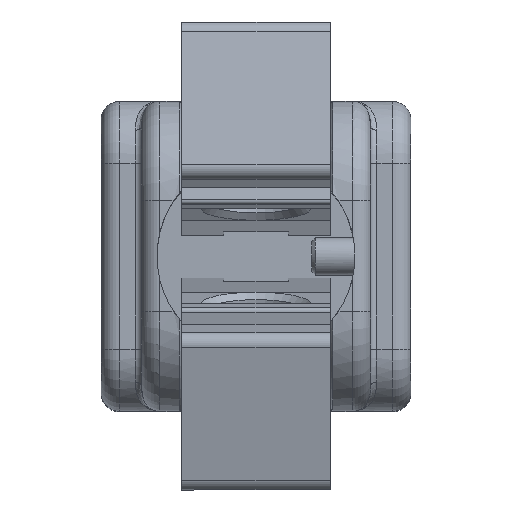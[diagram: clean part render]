
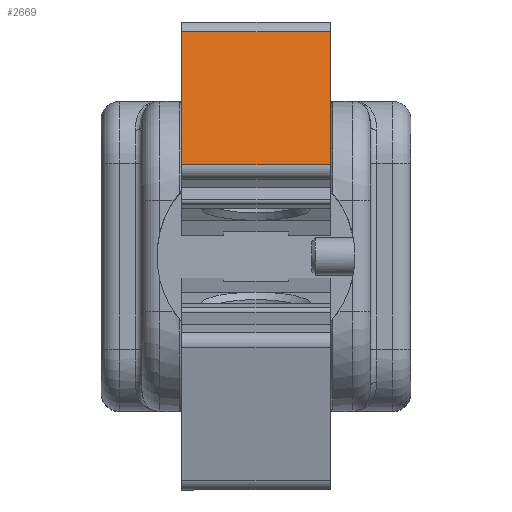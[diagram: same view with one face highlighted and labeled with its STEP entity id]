
A CAD part, top view. The second image highlights one B-rep face of the part: STEP entity #2669.
In plain terms, the highlighted planar face has unit normal (0, 0.221, 0.975).
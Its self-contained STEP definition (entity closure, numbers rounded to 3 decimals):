
#1298=PLANE('',#7135);
#1503=FACE_OUTER_BOUND('',#3374,.T.);
#1808=LINE('',#10542,#2176);
#1809=LINE('',#10544,#2177);
#1810=LINE('',#10546,#2178);
#1811=LINE('',#10548,#2179);
#2176=VECTOR('',#8426,1.);
#2177=VECTOR('',#8429,1.);
#2178=VECTOR('',#8430,1.);
#2179=VECTOR('',#8431,1.);
#2669=ADVANCED_FACE('',(#1503),#1298,.T.);
#3374=EDGE_LOOP('',(#4415,#4416,#4417,#4418));
#4415=ORIENTED_EDGE('',*,*,#6094,.F.);
#4416=ORIENTED_EDGE('',*,*,#6095,.T.);
#4417=ORIENTED_EDGE('',*,*,#6096,.F.);
#4418=ORIENTED_EDGE('',*,*,#6093,.T.);
#5415=VERTEX_POINT('',#10539);
#5416=VERTEX_POINT('',#10541);
#5417=VERTEX_POINT('',#10545);
#5418=VERTEX_POINT('',#10547);
#6093=EDGE_CURVE('',#5415,#5416,#1808,.T.);
#6094=EDGE_CURVE('',#5417,#5416,#1809,.T.);
#6095=EDGE_CURVE('',#5417,#5418,#1810,.T.);
#6096=EDGE_CURVE('',#5415,#5418,#1811,.T.);
#7135=AXIS2_PLACEMENT_3D('',#10549,#8432,#8433);
#8426=DIRECTION('',(1.,0.,0.));
#8429=DIRECTION('',(0.,-0.975,0.221));
#8430=DIRECTION('',(-1.,0.,0.));
#8431=DIRECTION('',(0.,0.975,-0.221));
#8432=DIRECTION('',(0.,0.221,0.975));
#8433=DIRECTION('',(0.,0.975,-0.221));
#10539=CARTESIAN_POINT('',(-6.142,8.663,129.317));
#10541=CARTESIAN_POINT('',(5.858,8.663,129.317));
#10542=CARTESIAN_POINT('',(-23.542,8.663,129.317));
#10544=CARTESIAN_POINT('',(5.858,20.367,126.669));
#10545=CARTESIAN_POINT('',(5.858,19.392,126.89));
#10546=CARTESIAN_POINT('',(-6.142,19.392,126.89));
#10547=CARTESIAN_POINT('',(-6.142,19.392,126.89));
#10548=CARTESIAN_POINT('',(-6.142,20.367,126.669));
#10549=CARTESIAN_POINT('',(-23.542,20.367,126.669));
